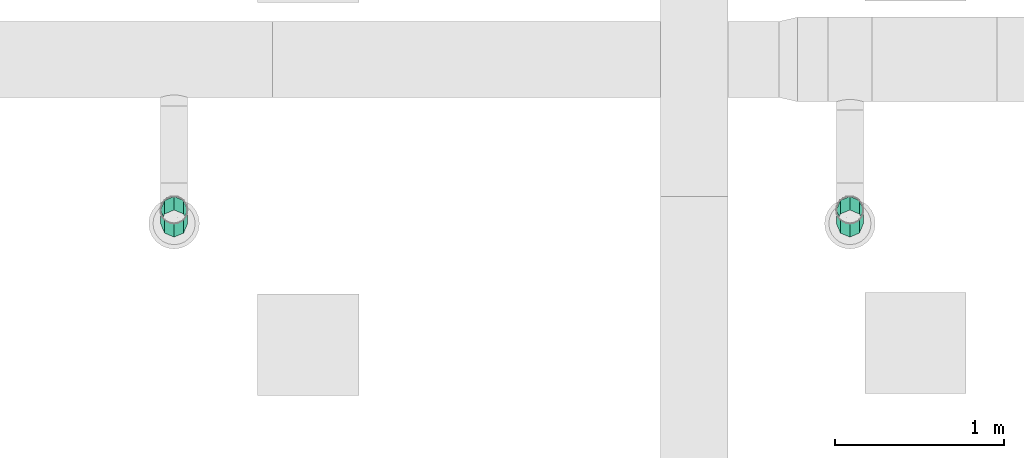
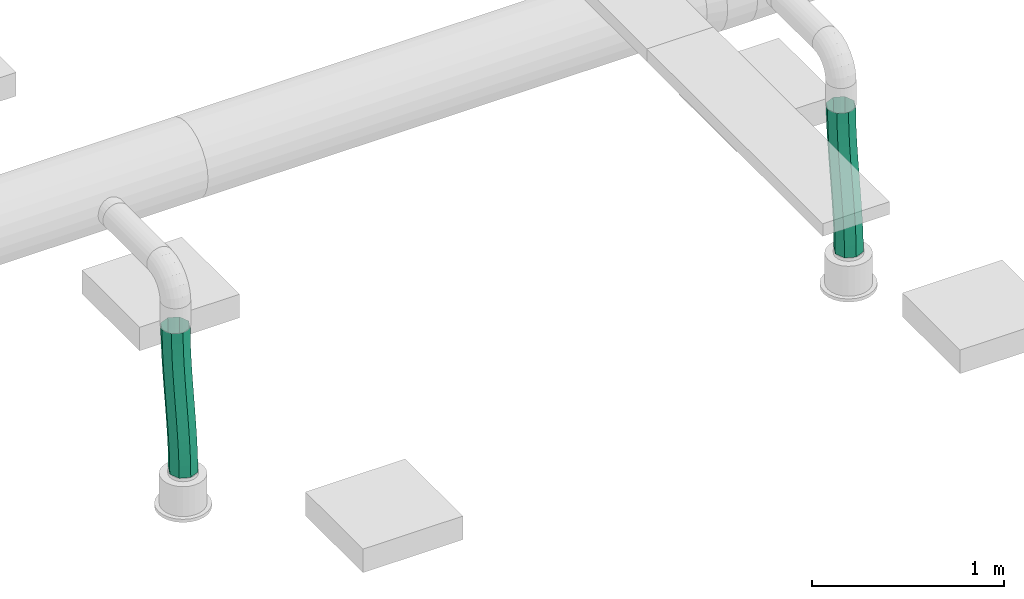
# One storey, part 248 of 374: 2 flow segments.
"""IFC2X3 building model written with IfcOpenShell, lengths in metres."""

from ifc_helpers import new_model, si_unit, direction, origin, place, context, subcontext, project, spatial, open_shell, surface_model, source, transform, mapped, element, save


model = new_model("IFC2X3")

# Units and contexts
model_context = context("Model", 3, precision=1e-05, world=origin(), true_north=direction((-0.4480736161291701, 0.8939966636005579)))
body_context = subcontext(model_context, "Body", "Model", "MODEL_VIEW")
ifc_project = project(units=[si_unit("LENGTHUNIT", "METRE"), si_unit("AREAUNIT", "SQUARE_METRE"), si_unit("VOLUMEUNIT", "CUBIC_METRE"), si_unit("PLANEANGLEUNIT", "RADIAN"), si_unit("THERMODYNAMICTEMPERATUREUNIT", "KELVIN"), si_unit("MASSUNIT", "GRAM", prefix="KILO"), si_unit("TIMEUNIT", "SECOND")], contexts=[model_context])

# Site, building, storey
site_placement = place(None, origin())
site = spatial("IfcSite", under=ifc_project, at=site_placement, Name="Site 1", CompositionType="ELEMENT")
building_placement = place(site_placement, origin())
building = spatial("IfcBuilding", under=site, at=building_placement, Name="Undefined", CompositionType="ELEMENT")
storey_placement = place(building_placement, origin())
storey = spatial("IfcBuildingStorey", under=building, at=storey_placement, Name="Rez de chauss\x8ee", CompositionType="ELEMENT", Elevation=0.0)

# Flow segments
shared_shape_1 = source(origin(), body_context, "Body", "SurfaceModel", [
    surface_model("IfcFaceBasedSurfaceModel", [(0.09591138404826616, 0.0, 0.0), (0.05777895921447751, 0.04790565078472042, 0.0), (0.0, 0.0, 0.0), (0.039908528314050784, -0.04643643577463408, -1.0802879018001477e-06), (-0.055767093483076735, -0.04966194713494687, -0.0010921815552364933), (-0.014403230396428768, -0.09480686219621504, -0.0010661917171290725), (-0.10982704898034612, -0.10061373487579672, -0.0030471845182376), (-0.06736210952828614, -0.1447244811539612, -0.002982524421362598), (-0.16253987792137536, -0.15244487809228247, -0.005638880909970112), (-0.11930632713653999, -0.1958024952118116, -0.00553726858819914), (-0.2142613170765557, -0.20475370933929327, -0.008645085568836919), (-0.17057410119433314, -0.24765410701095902, -0.008517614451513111), (-0.265340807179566, -0.25714537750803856, -0.011847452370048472), (-0.22150365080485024, -0.29989252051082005, -0.01171075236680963), (-0.3161204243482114, -0.30923055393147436, -0.015031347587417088), (-0.27243320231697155, -0.35213094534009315, -0.014903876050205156), (-0.36693454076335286, -0.36062497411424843, -0.01798580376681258), (-0.32370098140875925, -0.40398258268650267, -0.017884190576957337), (-0.4181101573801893, -0.4109498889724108, -0.020503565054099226), (-0.3756452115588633, -0.4550606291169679, -0.020438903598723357), (-0.4699679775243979, -0.4598333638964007, -0.022381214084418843), (-0.4286041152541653, -0.5049782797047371, -0.022355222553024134), (-0.5228244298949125, -0.5069122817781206, -0.0234192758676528), (-0.48291591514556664, -0.553348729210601, -0.023420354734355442), (-0.5770512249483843, -0.5518794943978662, -0.023421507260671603), (-0.5389188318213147, -0.5997851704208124, -0.023421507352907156), (0.030535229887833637, 0.08155715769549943, -0.04329420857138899), (-0.0279794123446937, 0.033042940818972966, -0.043293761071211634), (-0.08434932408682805, -0.017153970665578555, -0.04439715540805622), (-0.13886536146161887, -0.06853412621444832, -0.04636817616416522), (-0.19189656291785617, -0.12067722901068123, -0.04897517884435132), (-0.24380592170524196, -0.17317545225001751, -0.05199209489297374), (-0.29494752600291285, -0.22563060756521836, -0.05519828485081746), (-0.3456650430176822, -0.277652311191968, -0.058378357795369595), (-0.3962912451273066, -0.32885734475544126, -0.061322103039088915), (-0.44714848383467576, -0.3788702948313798, -0.06382455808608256), (-0.498550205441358, -0.4273253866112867, -0.06568618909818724), (-0.5508038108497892, -0.4738693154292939, -0.06671303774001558), (-0.6042948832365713, -0.5182279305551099, -0.06671571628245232), (0.030139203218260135, 0.08124192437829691, -0.10452146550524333), (-0.02763974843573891, 0.033336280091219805, -0.10452146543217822), (-0.0834068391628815, -0.016325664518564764, -0.1056136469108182), (-0.1374667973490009, -0.0672774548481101, -0.10756864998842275), (-0.19017963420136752, -0.11910860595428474, -0.11016034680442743), (-0.2419010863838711, -0.17141745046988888, -0.11316655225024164), (-0.2929805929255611, -0.22380913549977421, -0.11636892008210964), (-0.3437602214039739, -0.27589432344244, -0.1195528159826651), (-0.3945743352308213, -0.32728874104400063, -0.12250727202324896), (-0.4457499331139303, -0.3776136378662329, -0.12502503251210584), (-0.49760771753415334, -0.42649708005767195, -0.12690268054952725), (-0.5504641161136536, -0.4735759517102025, -0.12794074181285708), (-0.604690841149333, -0.5185431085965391, -0.1279429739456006), (0.05682286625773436, 0.047144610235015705, -0.14781567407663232), (0.0008200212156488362, 0.0007081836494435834, -0.14781675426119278), (-0.05349173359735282, -0.0476622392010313, -0.14888186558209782), (-0.10645061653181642, -0.09757986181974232, -0.15079819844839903), (-0.1583948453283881, -0.1486578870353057, -0.15335294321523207), (-0.2096626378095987, -0.20050951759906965, -0.15633329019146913), (-0.2605922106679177, -0.2527479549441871, -0.1595264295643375), (-0.31152177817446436, -0.30498639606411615, -0.1627195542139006), (-0.36278955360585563, -0.35683802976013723, -0.16569986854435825), (-0.4147337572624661, -0.40791605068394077, -0.16825458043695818), (-0.46769261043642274, -0.45783365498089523, -0.1701708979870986), (-0.5220043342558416, -0.5062040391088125, -0.1712360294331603), (-0.5780071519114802, -0.5526404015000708, -0.1712371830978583), (0.09495529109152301, -0.0007610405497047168, -0.14781567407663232), (0.040728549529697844, -0.04572825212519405, -0.14781783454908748), (-0.012127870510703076, -0.09280715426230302, -0.1488558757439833), (-0.06398567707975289, -0.14169060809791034, -0.15073353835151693), (-0.11516129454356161, -0.19201550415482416, -0.1532513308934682), (-0.16597542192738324, -0.2434099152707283, -0.15620581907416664), (-0.21675505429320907, -0.2954950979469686, -0.15938972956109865), (-0.2678345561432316, -0.34788678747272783, -0.16259208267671), (-0.31955599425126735, -0.40019563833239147, -0.16559825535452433), (-0.37226881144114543, -0.45202679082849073, -0.16818991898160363), (-0.4263287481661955, -0.502978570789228, -0.170144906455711), (-0.48209581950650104, -0.5526404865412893, -0.17123710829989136), (-0.5398747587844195, -0.6005460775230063, -0.17123718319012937), (0.12219902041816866, -0.03441254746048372, -0.10452146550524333), (0.06870796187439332, -0.07877119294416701, -0.10452407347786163), (0.016454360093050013, -0.12531513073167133, -0.10555090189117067), (-0.034947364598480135, -0.17377021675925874, -0.1074125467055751), (-0.08580460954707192, -0.2237831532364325, -0.10991503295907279), (-0.13643081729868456, -0.2749881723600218, -0.11285880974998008), (-0.18714833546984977, -0.32700986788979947, -0.11603889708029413), (-0.23828993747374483, -0.379465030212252, -0.11924507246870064), (-0.2901992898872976, -0.43196326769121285, -0.12226195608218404), (-0.3432304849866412, -0.4841063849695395, -0.12486892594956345), (-0.39774652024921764, -0.5354865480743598, -0.12683993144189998), (-0.4541164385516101, -0.5856834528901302, -0.12794334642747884), (-0.5126311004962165, -0.6341976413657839, -0.1279429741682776), (0.12259504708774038, -0.03409731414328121, -0.04329420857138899), (0.06836829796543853, -0.0790645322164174, -0.04329636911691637), (0.015511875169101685, -0.12614343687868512, -0.04433441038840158), (-0.0363459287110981, -0.17502688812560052, -0.04621207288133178), (-0.0875215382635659, -0.22535177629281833, -0.048729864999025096), (-0.13833565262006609, -0.27674617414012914, -0.05168435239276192), (-0.18911526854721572, -0.32883133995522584, -0.054868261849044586), (-0.24019475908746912, -0.3812230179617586, -0.05807061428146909), (-0.2919161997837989, -0.4335318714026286, -0.06107678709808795), (-0.34462903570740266, -0.4853630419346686, -0.06366845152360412), (-0.39868900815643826, -0.5363148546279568, -0.0656234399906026), (-0.4544561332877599, -0.5859768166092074, -0.06671564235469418), (-0.512235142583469, -0.6338824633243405, -0.06671571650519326)], [open_shell([[[0, 1, 2]], [[2, 3, 0]], [[3, 2, 4]], [[4, 5, 3]], [[5, 4, 6]], [[6, 7, 5]], [[7, 6, 8]], [[8, 9, 7]], [[9, 8, 10]], [[10, 11, 9]], [[11, 10, 12]], [[12, 13, 11]], [[13, 12, 14]], [[14, 15, 13]], [[15, 14, 16]], [[16, 17, 15]], [[17, 16, 18]], [[18, 19, 17]], [[19, 18, 20]], [[20, 21, 19]], [[21, 20, 22]], [[22, 23, 21]], [[23, 22, 24]], [[24, 25, 23]], [[1, 26, 27]], [[27, 2, 1]], [[2, 27, 28]], [[28, 4, 2]], [[4, 28, 29]], [[29, 6, 4]], [[6, 29, 30]], [[30, 8, 6]], [[8, 30, 31]], [[31, 10, 8]], [[10, 31, 32]], [[32, 12, 10]], [[12, 32, 33]], [[33, 14, 12]], [[14, 33, 34]], [[34, 16, 14]], [[16, 34, 35]], [[35, 18, 16]], [[18, 35, 36]], [[36, 20, 18]], [[20, 36, 37]], [[37, 22, 20]], [[22, 37, 38]], [[38, 24, 22]], [[26, 39, 40]], [[40, 27, 26]], [[27, 40, 41]], [[41, 28, 27]], [[28, 41, 42]], [[42, 29, 28]], [[29, 42, 43]], [[43, 30, 29]], [[30, 43, 44]], [[44, 31, 30]], [[31, 44, 45]], [[45, 32, 31]], [[32, 45, 46]], [[46, 33, 32]], [[33, 46, 47]], [[47, 34, 33]], [[34, 47, 48]], [[48, 35, 34]], [[35, 48, 49]], [[49, 36, 35]], [[36, 49, 50]], [[50, 37, 36]], [[37, 50, 51]], [[51, 38, 37]], [[39, 52, 53]], [[53, 40, 39]], [[40, 53, 54]], [[54, 41, 40]], [[41, 54, 55]], [[55, 42, 41]], [[42, 55, 56]], [[56, 43, 42]], [[43, 56, 57]], [[57, 44, 43]], [[44, 57, 58]], [[58, 45, 44]], [[45, 58, 59]], [[59, 46, 45]], [[46, 59, 60]], [[60, 47, 46]], [[47, 60, 61]], [[61, 48, 47]], [[48, 61, 62]], [[62, 49, 48]], [[49, 62, 63]], [[63, 50, 49]], [[50, 63, 64]], [[64, 51, 50]], [[52, 65, 66]], [[66, 53, 52]], [[53, 66, 67]], [[67, 54, 53]], [[54, 67, 68]], [[68, 55, 54]], [[55, 68, 69]], [[69, 56, 55]], [[56, 69, 70]], [[70, 57, 56]], [[57, 70, 71]], [[71, 58, 57]], [[58, 71, 72]], [[72, 59, 58]], [[59, 72, 73]], [[73, 60, 59]], [[60, 73, 74]], [[74, 61, 60]], [[61, 74, 75]], [[75, 62, 61]], [[62, 75, 76]], [[76, 63, 62]], [[63, 76, 77]], [[77, 64, 63]], [[65, 78, 79]], [[79, 66, 65]], [[66, 79, 80]], [[80, 67, 66]], [[67, 80, 81]], [[81, 68, 67]], [[68, 81, 82]], [[82, 69, 68]], [[69, 82, 83]], [[83, 70, 69]], [[70, 83, 84]], [[84, 71, 70]], [[71, 84, 85]], [[85, 72, 71]], [[72, 85, 86]], [[86, 73, 72]], [[73, 86, 87]], [[87, 74, 73]], [[74, 87, 88]], [[88, 75, 74]], [[75, 88, 89]], [[89, 76, 75]], [[76, 89, 90]], [[90, 77, 76]], [[78, 91, 92]], [[92, 79, 78]], [[79, 92, 93]], [[93, 80, 79]], [[80, 93, 94]], [[94, 81, 80]], [[81, 94, 95]], [[95, 82, 81]], [[82, 95, 96]], [[96, 83, 82]], [[83, 96, 97]], [[97, 84, 83]], [[84, 97, 98]], [[98, 85, 84]], [[85, 98, 99]], [[99, 86, 85]], [[86, 99, 100]], [[100, 87, 86]], [[87, 100, 101]], [[101, 88, 87]], [[88, 101, 102]], [[102, 89, 88]], [[89, 102, 103]], [[103, 90, 89]], [[91, 0, 3]], [[3, 92, 91]], [[92, 3, 5]], [[5, 93, 92]], [[93, 5, 7]], [[7, 94, 93]], [[94, 7, 9]], [[9, 95, 94]], [[95, 9, 11]], [[11, 96, 95]], [[96, 11, 13]], [[13, 97, 96]], [[97, 13, 15]], [[15, 98, 97]], [[98, 15, 17]], [[17, 99, 98]], [[99, 17, 19]], [[19, 100, 99]], [[100, 19, 21]], [[21, 101, 100]], [[101, 21, 23]], [[23, 102, 101]], [[102, 23, 25]], [[25, 103, 102]]])]),
])
flow_segment_1_placement = place(storey_placement, origin())
element("IfcFlowSegment", 1, at=flow_segment_1_placement, inside=storey, Name="Tube flexible", ObjectType="Tube flexible", context=body_context, shape_type="MappedRepresentation", body=[
    mapped(shared_shape_1, transform((54.233432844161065, 2.014947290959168, 3.4049617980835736), x_axis=(-0.24430323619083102, -0.57289869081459, 0.7823701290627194), y_axis=(0.2946538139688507, 0.7248106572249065, 0.6227588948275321), z_axis=(-0.9238479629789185, 0.38267035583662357, -0.008266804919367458))),
])
shared_shape_2 = source(origin(), body_context, "Body", "SurfaceModel", [
    surface_model("IfcFaceBasedSurfaceModel", [(0.09591138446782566, 0.0, -7.105427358e-15), (0.05777895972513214, 0.04790565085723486, 0.0), (0.0, 0.0, 0.0), (0.03990852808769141, -0.04643643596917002, -1.0802993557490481e-06), (-0.05576709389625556, -0.04966194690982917, -0.0010921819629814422), (-0.014403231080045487, -0.09480686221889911, -0.001066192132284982), (-0.1098270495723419, -0.10061373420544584, -0.0030471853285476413), (-0.06736211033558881, -0.14472448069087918, -0.002982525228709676), (-0.16253987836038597, -0.1524448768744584, -0.005638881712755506), (-0.11930632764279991, -0.1958024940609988, -0.005537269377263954), (-0.2142613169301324, -0.2047537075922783, -0.008645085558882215), (-0.17057410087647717, -0.24765410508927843, -0.008517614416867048), (-0.2653408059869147, -0.2571453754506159, -0.011847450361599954), (-0.22150364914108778, -0.29989251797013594, -0.011710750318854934), (-0.3161204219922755, -0.30923055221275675, -0.01503134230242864), (-0.2724331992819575, -0.3521309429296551, -0.014903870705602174), (-0.3669345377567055, -0.360624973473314, -0.017985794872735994), (-0.32370097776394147, -0.4039825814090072, -0.017884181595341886), (-0.418110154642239, -0.4109498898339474, -0.020503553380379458), (-0.375645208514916, -0.45506062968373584, -0.020438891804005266), (-0.4699679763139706, -0.4598333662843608, -0.022381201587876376), (-0.4286041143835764, -0.5049782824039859, -0.02235520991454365), (-0.5228244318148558, -0.5069122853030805, -0.02341926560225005), (-0.4829159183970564, -0.5533487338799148, -0.023420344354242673), (-0.5770512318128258, -0.551879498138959, -0.023421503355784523), (-0.5389188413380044, -0.5997851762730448, -0.02342150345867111), (0.030535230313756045, 0.08155715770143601, -0.04329420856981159), (-0.027979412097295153, 0.033042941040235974, -0.043293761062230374), (-0.08434932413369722, -0.01715397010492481, -0.04439715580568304), (-0.13886536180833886, -0.06853412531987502, -0.04636817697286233), (-0.19189656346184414, -0.12067722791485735, -0.04897517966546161), (-0.24380592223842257, -0.17317545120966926, -0.05199209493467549), (-0.2949475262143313, -0.22563060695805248, -0.05519828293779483), (-0.3456650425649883, -0.27765231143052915, -0.05837835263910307), (-0.39629124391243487, -0.328857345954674, -0.06132209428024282), (-0.4471484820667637, -0.3788702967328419, -0.06382454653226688), (-0.4985502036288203, -0.4273253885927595, -0.06568617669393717), (-0.5508038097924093, -0.47386931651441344, -0.06671302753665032), (-0.6042948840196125, -0.5182279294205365, -0.06671571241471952), (0.03013920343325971, 0.08124192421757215, -0.10452146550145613), (-0.027639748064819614, 0.03333628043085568, -0.10452146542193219), (-0.08340683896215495, -0.016325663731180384, -0.10561364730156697), (-0.13746679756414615, -0.0672774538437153, -0.10756865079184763), (-0.19017963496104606, -0.11910860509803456, -0.11016034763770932), (-0.24190108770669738, -0.171417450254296, -0.11316655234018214), (-0.2929805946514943, -0.2238091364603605, -0.11636891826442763), (-0.3437602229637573, -0.2758943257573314, -0.11955281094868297), (-0.3945743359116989, -0.3272887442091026, -0.12250726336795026), (-0.44574993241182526, -0.3776136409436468, -0.12502502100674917), (-0.49760771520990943, -0.42649708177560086, -0.1269026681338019), (-0.5504641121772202, -0.47357595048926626, -0.12794073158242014), (-0.6046908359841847, -0.5185431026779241, -0.12794297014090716), (0.05682286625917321, 0.04714460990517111, -0.14781567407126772), (0.0008200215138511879, 0.0007081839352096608, -0.14781675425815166), (-0.05349173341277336, -0.047662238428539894, -0.14888186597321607), (-0.10645061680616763, -0.09757986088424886, -0.15079819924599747), (-0.15839484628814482, -0.1486578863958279, -0.15335294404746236), (-0.20966263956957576, -0.20050951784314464, -0.15633329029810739), (-0.26059221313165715, -0.2527479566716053, -0.15952642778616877), (-0.3115217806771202, -0.30498639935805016, -0.16271954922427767), (-0.3627895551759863, -0.3568380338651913, -0.16569985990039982), (-0.4147337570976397, -0.407916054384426, -0.16825456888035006), (-0.4676926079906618, -0.4578336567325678, -0.17017088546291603), (-0.5220043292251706, -0.5062040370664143, -0.17123601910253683), (-0.5780071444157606, -0.5526403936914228, -0.17123717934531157), (0.0949552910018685, -0.0007610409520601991, -0.14781567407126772), (0.04072854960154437, -0.045728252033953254, -0.14781783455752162), (-0.01212787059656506, -0.09280715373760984, -0.1488558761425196), (-0.0639856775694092, -0.14169060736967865, -0.1507335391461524), (-0.11516129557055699, -0.1920155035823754, -0.1532513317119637), (-0.165975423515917, -0.24340991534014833, -0.1562058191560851), (-0.2167550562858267, -0.2954950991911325, -0.15938972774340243), (-0.2678345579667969, -0.3478867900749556, -0.1625920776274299), (-0.31955599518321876, -0.4001956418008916, -0.1655982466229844), (-0.37226881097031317, -0.452026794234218, -0.16818990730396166), (-0.42632874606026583, -0.5029785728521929, -0.1701448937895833), (-0.4820958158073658, -0.5526404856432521, -0.17123709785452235), (-0.5398747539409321, -0.6005460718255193, -0.17123717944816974), (0.1221990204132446, -0.034412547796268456, -0.10452146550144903), (0.06870796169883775, -0.07877119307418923, -0.10452407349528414), (0.016454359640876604, -0.12531513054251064, -0.10555090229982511), (-0.03494736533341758, -0.1737702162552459, -0.10741254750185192), (-0.08580461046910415, -0.22378315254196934, -0.1099150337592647), (-0.13643081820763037, -0.2749881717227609, -0.11285880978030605), (-0.18714833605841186, -0.32700986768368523, -0.11603889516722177), (-0.23828993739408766, -0.3794650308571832, -0.11924506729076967), (-0.29019928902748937, -0.4319632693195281, -0.12226194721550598), (-0.343230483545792, -0.48410638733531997, -0.12486891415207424), (-0.3977465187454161, -0.5354865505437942, -0.1268399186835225), (-0.45411643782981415, -0.585683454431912, -0.12794333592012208), (-0.5126311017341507, -0.6341976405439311, -0.12794297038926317), (0.12259504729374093, -0.034097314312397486, -0.04329420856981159), (0.06836829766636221, -0.07906453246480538, -0.043296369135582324), (0.01551187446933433, -0.12614343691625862, -0.04433441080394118), (-0.036345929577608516, -0.17502688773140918, -0.04621207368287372), (-0.0875215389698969, -0.2253517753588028, -0.04872986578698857), (-0.13833565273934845, -0.2767461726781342, -0.0516843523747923), (-0.18911526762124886, -0.3288313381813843, -0.05486825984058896), (-0.24019475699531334, -0.3812230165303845, -0.05807060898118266), (-0.29191619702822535, -0.43353187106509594, -0.06107677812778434), (-0.34462903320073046, -0.48536304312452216, -0.06366843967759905), (-0.3986890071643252, -0.5363148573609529, -0.06562342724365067), (-0.4544561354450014, -0.5859768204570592, -0.06671563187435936), (-0.512235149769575, -0.6338824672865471, -0.06671571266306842)], [open_shell([[[0, 1, 2]], [[2, 3, 0]], [[3, 2, 4]], [[4, 5, 3]], [[5, 4, 6]], [[6, 7, 5]], [[7, 6, 8]], [[8, 9, 7]], [[9, 8, 10]], [[10, 11, 9]], [[11, 10, 12]], [[12, 13, 11]], [[13, 12, 14]], [[14, 15, 13]], [[15, 14, 16]], [[16, 17, 15]], [[17, 16, 18]], [[18, 19, 17]], [[19, 18, 20]], [[20, 21, 19]], [[21, 20, 22]], [[22, 23, 21]], [[23, 22, 24]], [[24, 25, 23]], [[1, 26, 27]], [[27, 2, 1]], [[2, 27, 28]], [[28, 4, 2]], [[4, 28, 29]], [[29, 6, 4]], [[6, 29, 30]], [[30, 8, 6]], [[8, 30, 31]], [[31, 10, 8]], [[10, 31, 32]], [[32, 12, 10]], [[12, 32, 33]], [[33, 14, 12]], [[14, 33, 34]], [[34, 16, 14]], [[16, 34, 35]], [[35, 18, 16]], [[18, 35, 36]], [[36, 20, 18]], [[20, 36, 37]], [[37, 22, 20]], [[22, 37, 38]], [[38, 24, 22]], [[26, 39, 40]], [[40, 27, 26]], [[27, 40, 41]], [[41, 28, 27]], [[28, 41, 42]], [[42, 29, 28]], [[29, 42, 43]], [[43, 30, 29]], [[30, 43, 44]], [[44, 31, 30]], [[31, 44, 45]], [[45, 32, 31]], [[32, 45, 46]], [[46, 33, 32]], [[33, 46, 47]], [[47, 34, 33]], [[34, 47, 48]], [[48, 35, 34]], [[35, 48, 49]], [[49, 36, 35]], [[36, 49, 50]], [[50, 37, 36]], [[37, 50, 51]], [[51, 38, 37]], [[39, 52, 53]], [[53, 40, 39]], [[40, 53, 54]], [[54, 41, 40]], [[41, 54, 55]], [[55, 42, 41]], [[42, 55, 56]], [[56, 43, 42]], [[43, 56, 57]], [[57, 44, 43]], [[44, 57, 58]], [[58, 45, 44]], [[45, 58, 59]], [[59, 46, 45]], [[46, 59, 60]], [[60, 47, 46]], [[47, 60, 61]], [[61, 48, 47]], [[48, 61, 62]], [[62, 49, 48]], [[49, 62, 63]], [[63, 50, 49]], [[50, 63, 64]], [[64, 51, 50]], [[52, 65, 66]], [[66, 53, 52]], [[53, 66, 67]], [[67, 54, 53]], [[54, 67, 68]], [[68, 55, 54]], [[55, 68, 69]], [[69, 56, 55]], [[56, 69, 70]], [[70, 57, 56]], [[57, 70, 71]], [[71, 58, 57]], [[58, 71, 72]], [[72, 59, 58]], [[59, 72, 73]], [[73, 60, 59]], [[60, 73, 74]], [[74, 61, 60]], [[61, 74, 75]], [[75, 62, 61]], [[62, 75, 76]], [[76, 63, 62]], [[63, 76, 77]], [[77, 64, 63]], [[65, 78, 79]], [[79, 66, 65]], [[66, 79, 80]], [[80, 67, 66]], [[67, 80, 81]], [[81, 68, 67]], [[68, 81, 82]], [[82, 69, 68]], [[69, 82, 83]], [[83, 70, 69]], [[70, 83, 84]], [[84, 71, 70]], [[71, 84, 85]], [[85, 72, 71]], [[72, 85, 86]], [[86, 73, 72]], [[73, 86, 87]], [[87, 74, 73]], [[74, 87, 88]], [[88, 75, 74]], [[75, 88, 89]], [[89, 76, 75]], [[76, 89, 90]], [[90, 77, 76]], [[78, 91, 92]], [[92, 79, 78]], [[79, 92, 93]], [[93, 80, 79]], [[80, 93, 94]], [[94, 81, 80]], [[81, 94, 95]], [[95, 82, 81]], [[82, 95, 96]], [[96, 83, 82]], [[83, 96, 97]], [[97, 84, 83]], [[84, 97, 98]], [[98, 85, 84]], [[85, 98, 99]], [[99, 86, 85]], [[86, 99, 100]], [[100, 87, 86]], [[87, 100, 101]], [[101, 88, 87]], [[88, 101, 102]], [[102, 89, 88]], [[89, 102, 103]], [[103, 90, 89]], [[91, 0, 3]], [[3, 92, 91]], [[92, 3, 5]], [[5, 93, 92]], [[93, 5, 7]], [[7, 94, 93]], [[94, 7, 9]], [[9, 95, 94]], [[95, 9, 11]], [[11, 96, 95]], [[96, 11, 13]], [[13, 97, 96]], [[97, 13, 15]], [[15, 98, 97]], [[98, 15, 17]], [[17, 99, 98]], [[99, 17, 19]], [[19, 100, 99]], [[100, 19, 21]], [[21, 101, 100]], [[101, 21, 23]], [[23, 102, 101]], [[102, 23, 25]], [[25, 103, 102]]])]),
])
flow_segment_2_placement = place(storey_placement, origin())
element("IfcFlowSegment", 2, at=flow_segment_2_placement, inside=storey, Name="Tube flexible", ObjectType="Tube flexible", context=body_context, shape_type="MappedRepresentation", body=[
    mapped(shared_shape_2, transform((58.23343293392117, 2.0149472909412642, 3.404961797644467), x_axis=(-0.24430323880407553, -0.5728986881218, 0.78237013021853), y_axis=(0.2946538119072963, 0.7248106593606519, 0.6227588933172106), z_axis=(-0.9238479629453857, 0.3826703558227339, -0.008266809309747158))),
])

save(model, "model.ifc")
